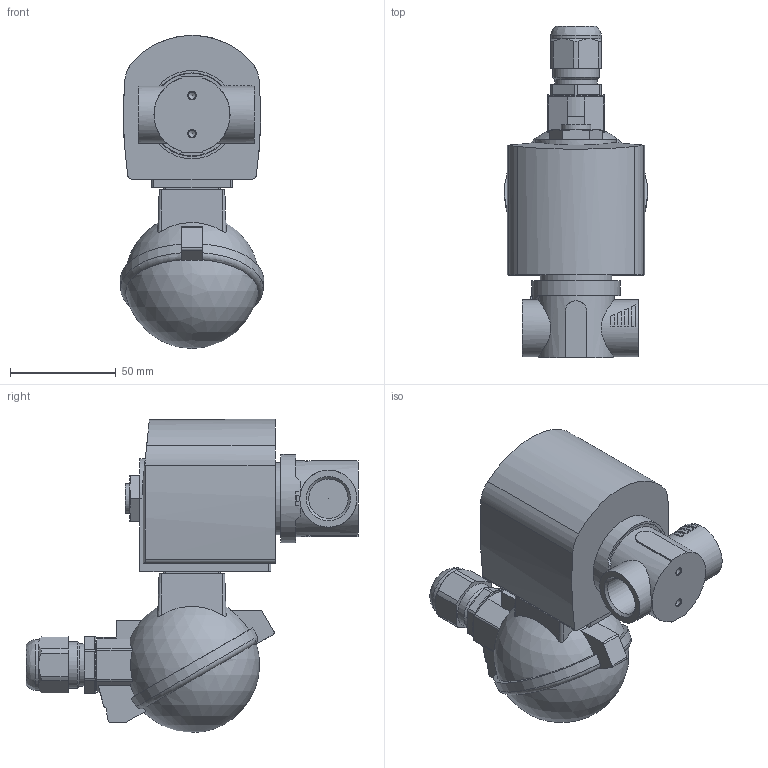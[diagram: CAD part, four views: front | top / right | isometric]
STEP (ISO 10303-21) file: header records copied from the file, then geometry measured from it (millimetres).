
FILE_DESCRIPTION( ( 'STEP AP214' ), '1' );
FILE_NAME( 'p:/temp/worker_5/temp/app_52_02018110107225974542559192d056f_000000_00_00_000000/format_0/6240-313005-2_2-way_solenoid_valve__pilot-controlled.stp', '2018-11-01T06:23:01', ( '' ), ( '' ), ' ', 'PARTsolutions', ' ' );
FILE_SCHEMA( ( 'AUTOMOTIVE_DESIGN { 1 0 10303 214 1 1 1 1 }' ) );
Length unit declared in the file: millimetre
Products named in the file (3): 6240-313005-2/2-way solenoid valve, pilot-controlled; HI_6240--Gehäuse-2/2-Wege-Magnetventil, vorgesteuert   G 1/2     M 32x1 VA  27 20.96 14 55 36 21 14 8 15 14 16.5         ; HI_AC10ex-65ATEXKLK_MB05Plan-Coil
Assembly tree (2 placements, depth 2):
  6240-313005-2/2-way solenoid valve, pilot-controlled
    HI_6240--Gehäuse-2/2-Wege-Magnetventil, vorgesteuert   G 1/2     M 32x1 VA  27 20.96 14 55 36 21 14 8 15 14 16.5         
    HI_AC10ex-65ATEXKLK_MB05Plan-Coil
Bounding box: 67.86 x 157.1 x 148.2 mm (x, y, z)
Volume: 482679.6 mm3; surface area: 59191.3 mm2
Topology: 2 solids, 2 shells, 212 faces, 539 edges, 352 vertices
Faces by surface type: plane 120, cylinder 60, cone 25, sphere 4, torus 2, bspline 1
Full cylindrical faces by diameter (mm): 0.2 x1, 3.242 x3, 14 x2, 17.294 x1, 18.631 x2, 20 x1, 22 x1, 23 x1, 24 x1, 27 x3, 34 x1, 36 x1, 39 x1, 39.5 x1, 41.8 x1
Entity records: 8404 total; most frequent: CARTESIAN_POINT 1633, DIRECTION 1089, ORIENTED_EDGE 982, EDGE_CURVE 491, AXIS2_PLACEMENT_3D 426, VERTEX_POINT 340, EDGE_LOOP 268, LINE 237
